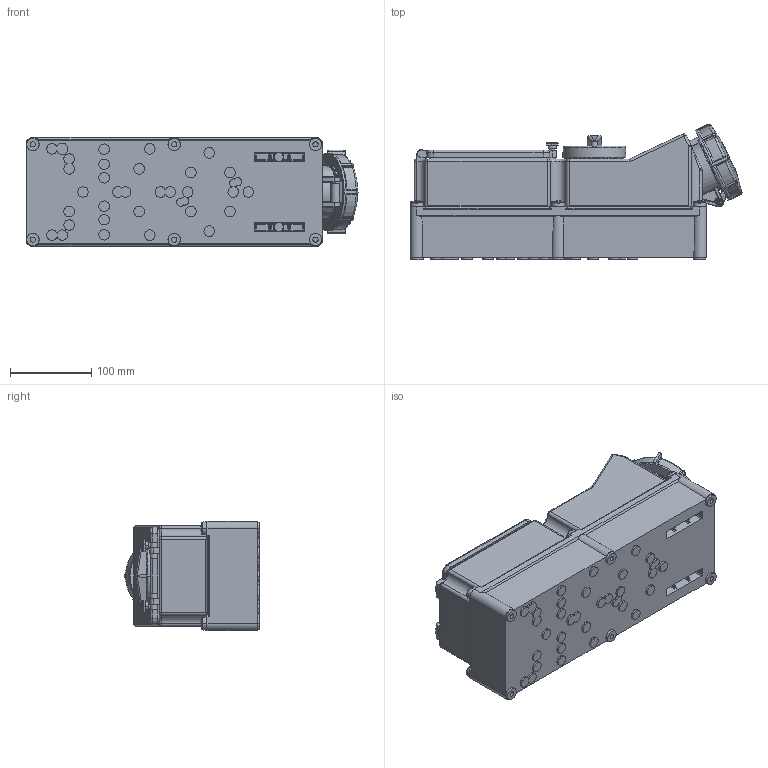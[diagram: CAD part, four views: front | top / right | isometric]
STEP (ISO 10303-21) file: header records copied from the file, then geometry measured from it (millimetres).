
FILE_DESCRIPTION((''),'2;1');
FILE_NAME('1125438_ASM_SW0006','2019-12-19T11:13:44',('kremer'),('MENNEKES'),'CREO PARAMETRIC BY PTC INC, 2018260','CREO PARAMETRIC BY PTC INC, 2018260','');
FILE_SCHEMA(('AUTOMOTIVE_DESIGN { 1 0 10303 214 1 1 1 1 }'));
Products named in the file (1): 1125438_ASM_SW0006
Bounding box: 407.68 x 166.6 x 134 mm (x, y, z)
Volume: 6048779.7 mm3; surface area: 272109.6 mm2
Topology: 1 solids, 1 shells, 1750 faces, 4690 edges, 3006 vertices
Faces by surface type: plane 775, cylinder 410, cone 244, bspline 133, torus 101, sphere 50, extrusion 37
Entity records: 84686 total; most frequent: CARTESIAN_POINT 26544, ORIENTED_EDGE 9376, DIRECTION 7664, EDGE_CURVE 4688, VERTEX_POINT 3006, AXIS2_PLACEMENT_3D 2897, FILL_AREA_STYLE_COLOUR 2574, FILL_AREA_STYLE 2574
